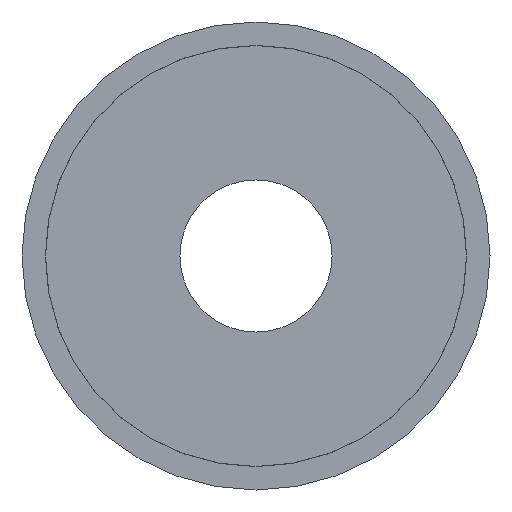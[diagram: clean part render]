
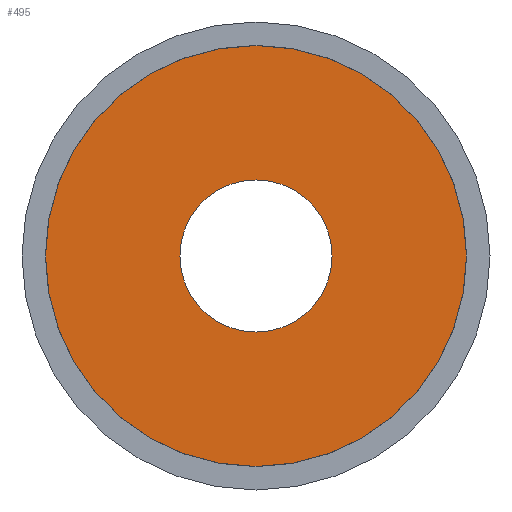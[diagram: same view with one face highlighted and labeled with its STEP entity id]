
A CAD part, front view. The second image highlights one B-rep face of the part: STEP entity #495.
In plain terms, the highlighted planar face has unit normal (0, -1, 0).
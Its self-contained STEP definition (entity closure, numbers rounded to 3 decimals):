
#86 = ORIENTED_EDGE ( 'NONE', *, *, #551, .T. ) ;
#143 = DIRECTION ( 'NONE',  ( 0., 0., -1. ) ) ;
#176 = EDGE_LOOP ( 'NONE', ( #86, #458 ) ) ;
#181 = AXIS2_PLACEMENT_3D ( 'NONE', #728, #570, #376 ) ;
#191 = EDGE_CURVE ( 'NONE', #322, #797, #693, .T. ) ;
#217 = DIRECTION ( 'NONE',  ( 0., -1., 0. ) ) ;
#221 = EDGE_CURVE ( 'NONE', #579, #923, #521, .T. ) ;
#227 = CIRCLE ( 'NONE', #759, 6.5 ) ;
#290 = DIRECTION ( 'NONE',  ( 0., 1., 0. ) ) ;
#291 = CARTESIAN_POINT ( 'NONE',  ( 0., -10., -6.5 ) ) ;
#322 = VERTEX_POINT ( 'NONE', #902 ) ;
#358 = DIRECTION ( 'NONE',  ( 0., 0., 1. ) ) ;
#376 = DIRECTION ( 'NONE',  ( 0., 0., -1. ) ) ;
#443 = CARTESIAN_POINT ( 'NONE',  ( -20., -10., 0. ) ) ;
#458 = ORIENTED_EDGE ( 'NONE', *, *, #221, .T. ) ;
#494 = DIRECTION ( 'NONE',  ( 0., 0., -1. ) ) ;
#495 = ADVANCED_FACE ( 'NONE', ( #941, #876 ), #781, .T. ) ;
#499 = DIRECTION ( 'NONE',  ( 0., 1., 0. ) ) ;
#513 = EDGE_LOOP ( 'NONE', ( #563, #958 ) ) ;
#521 = CIRCLE ( 'NONE', #789, 6.5 ) ;
#530 = DIRECTION ( 'NONE',  ( 0., 0., 1. ) ) ;
#545 = EDGE_CURVE ( 'NONE', #797, #322, #650, .T. ) ;
#551 = EDGE_CURVE ( 'NONE', #923, #579, #227, .T. ) ;
#563 = ORIENTED_EDGE ( 'NONE', *, *, #545, .T. ) ;
#570 = DIRECTION ( 'NONE',  ( 0., -1., 0. ) ) ;
#579 = VERTEX_POINT ( 'NONE', #291 ) ;
#639 = CARTESIAN_POINT ( 'NONE',  ( 0., -10., -17.99 ) ) ;
#650 = CIRCLE ( 'NONE', #181, 17.99 ) ;
#693 = CIRCLE ( 'NONE', #838, 17.99 ) ;
#728 = CARTESIAN_POINT ( 'NONE',  ( 0., -10., 0. ) ) ;
#759 = AXIS2_PLACEMENT_3D ( 'NONE', #862, #499, #358 ) ;
#781 = PLANE ( 'NONE',  #810 ) ;
#789 = AXIS2_PLACEMENT_3D ( 'NONE', #817, #290, #530 ) ;
#797 = VERTEX_POINT ( 'NONE', #639 ) ;
#800 = DIRECTION ( 'NONE',  ( 0., -1., 0. ) ) ;
#810 = AXIS2_PLACEMENT_3D ( 'NONE', #443, #800, #494 ) ;
#817 = CARTESIAN_POINT ( 'NONE',  ( 0., -10., 0. ) ) ;
#838 = AXIS2_PLACEMENT_3D ( 'NONE', #891, #217, #143 ) ;
#862 = CARTESIAN_POINT ( 'NONE',  ( 0., -10., 0. ) ) ;
#876 = FACE_OUTER_BOUND ( 'NONE', #513, .T. ) ;
#887 = CARTESIAN_POINT ( 'NONE',  ( 0., -10., 6.5 ) ) ;
#891 = CARTESIAN_POINT ( 'NONE',  ( 0., -10., 0. ) ) ;
#902 = CARTESIAN_POINT ( 'NONE',  ( 0., -10., 17.99 ) ) ;
#923 = VERTEX_POINT ( 'NONE', #887 ) ;
#941 = FACE_BOUND ( 'NONE', #176, .T. ) ;
#958 = ORIENTED_EDGE ( 'NONE', *, *, #191, .T. ) ;
